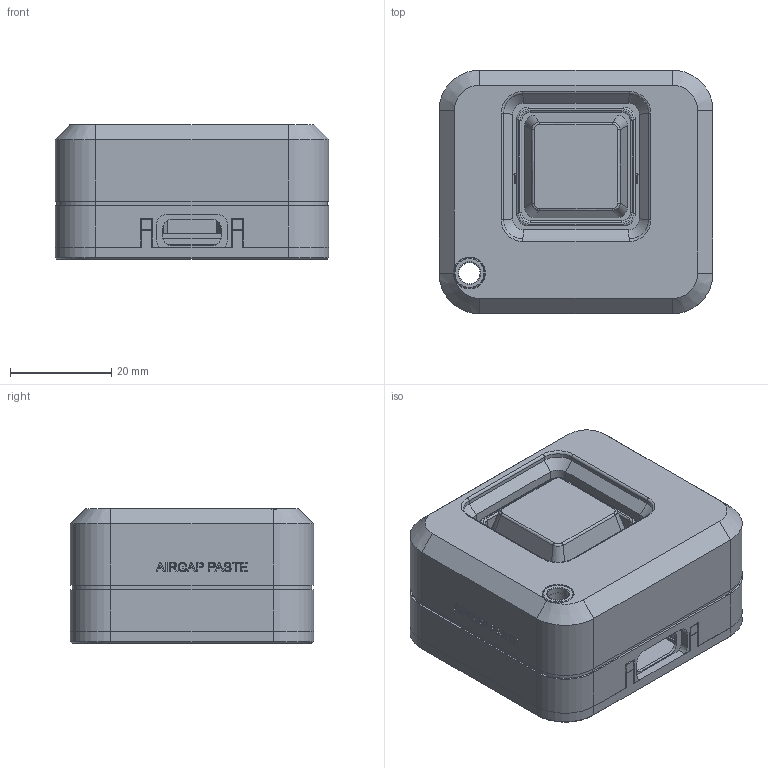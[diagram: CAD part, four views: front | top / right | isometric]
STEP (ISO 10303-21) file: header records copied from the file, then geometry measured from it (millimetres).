
FILE_DESCRIPTION(('Open CASCADE Model'),'2;1');
FILE_NAME('Open CASCADE Shape Model','2026-10-06T21:24:30',('Author'),( 'Open CASCADE'),'Open CASCADE STEP processor 7.9','Open CASCADE 7.9' ,'Unknown');
FILE_SCHEMA(('AUTOMOTIVE_DESIGN { 1 0 10303 214 1 1 1 1 }'));
Length unit declared in the file: millimetre
Products named in the file (10): AirGap_Paste_Pocket_Recess; 01_shell; 02_base; 03_keycap; 04_halo; 09_eye_bushing; 05_mx_plate; 07_xiao_wedge; 06_lightguide_left; 06_lightguide_right
Assembly tree (9 placements, depth 2):
  AirGap_Paste_Pocket_Recess
    01_shell
    02_base
    03_keycap
    04_halo
    09_eye_bushing
    05_mx_plate
    07_xiao_wedge
    06_lightguide_left
    06_lightguide_right
Bounding box: 54 x 48 x 26.6 mm (x, y, z)
Volume: 25213.3 mm3; surface area: 28967.1 mm2
Topology: 9 solids, 9 shells, 802 faces, 2120 edges, 1380 vertices
Faces by surface type: plane 486, extrusion 100, bspline 98, cylinder 94, torus 14, cone 10
Full cylindrical faces by diameter (mm): 3.4 x6, 4.2 x3, 5.3 x1, 6 x1, 6.3 x1
Entity records: 53920 total; most frequent: CARTESIAN_POINT 14524, DIRECTION 5985, ORIENTED_EDGE 4240, PCURVE 4240, DEFINITIONAL_REPRESENTATION 4240, VECTOR 4185, LINE 4085, EDGE_CURVE 2120
